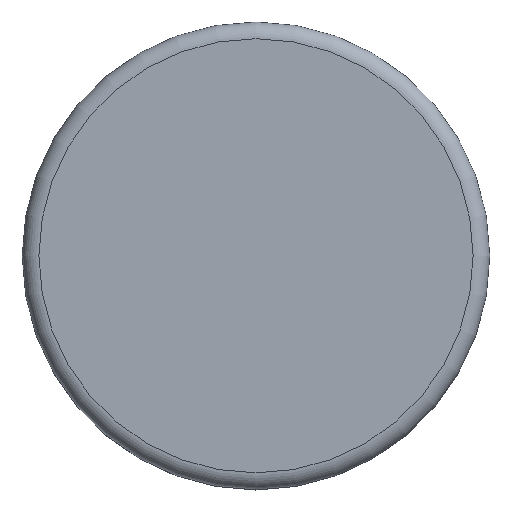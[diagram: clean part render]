
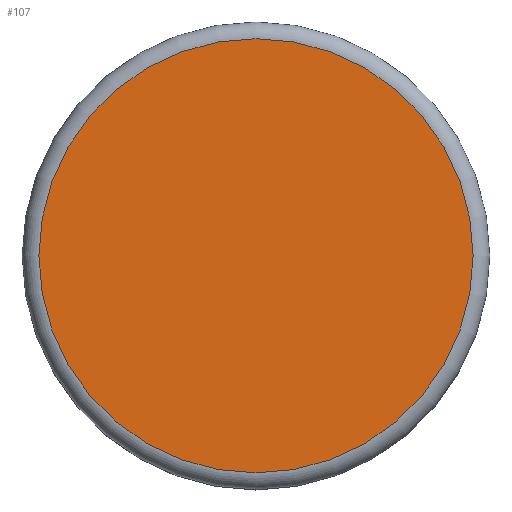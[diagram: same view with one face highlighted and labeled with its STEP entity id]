
A CAD part, top view. The second image highlights one B-rep face of the part: STEP entity #107.
In plain terms, the highlighted planar face has unit normal (0, 0, 1).
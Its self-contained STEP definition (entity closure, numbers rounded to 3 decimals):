
#15=PLANE('',#140);
#26=FACE_OUTER_BOUND('',#32,.T.);
#32=EDGE_LOOP('',(#83,#84));
#37=CIRCLE('',#132,26.);
#41=CIRCLE('',#136,26.);
#48=VERTEX_POINT('',#188);
#49=VERTEX_POINT('',#189);
#58=EDGE_CURVE('',#48,#49,#37,.T.);
#62=EDGE_CURVE('',#49,#48,#41,.T.);
#83=ORIENTED_EDGE('',*,*,#58,.F.);
#84=ORIENTED_EDGE('',*,*,#62,.F.);
#107=ADVANCED_FACE('',(#26),#15,.T.);
#132=AXIS2_PLACEMENT_3D('',#190,#152,#153);
#136=AXIS2_PLACEMENT_3D('',#196,#160,#161);
#140=AXIS2_PLACEMENT_3D('',#203,#169,#170);
#152=DIRECTION('center_axis',(0.,0.,-1.));
#153=DIRECTION('ref_axis',(-1.,0.,0.));
#160=DIRECTION('center_axis',(0.,0.,-1.));
#161=DIRECTION('ref_axis',(-1.,0.,0.));
#169=DIRECTION('center_axis',(0.,0.,1.));
#170=DIRECTION('ref_axis',(1.,0.,0.));
#188=CARTESIAN_POINT('',(26.,0.,30.));
#189=CARTESIAN_POINT('',(-26.,0.,30.));
#190=CARTESIAN_POINT('Origin',(0.,0.,30.));
#196=CARTESIAN_POINT('Origin',(0.,0.,30.));
#203=CARTESIAN_POINT('Origin',(0.,0.,30.));
